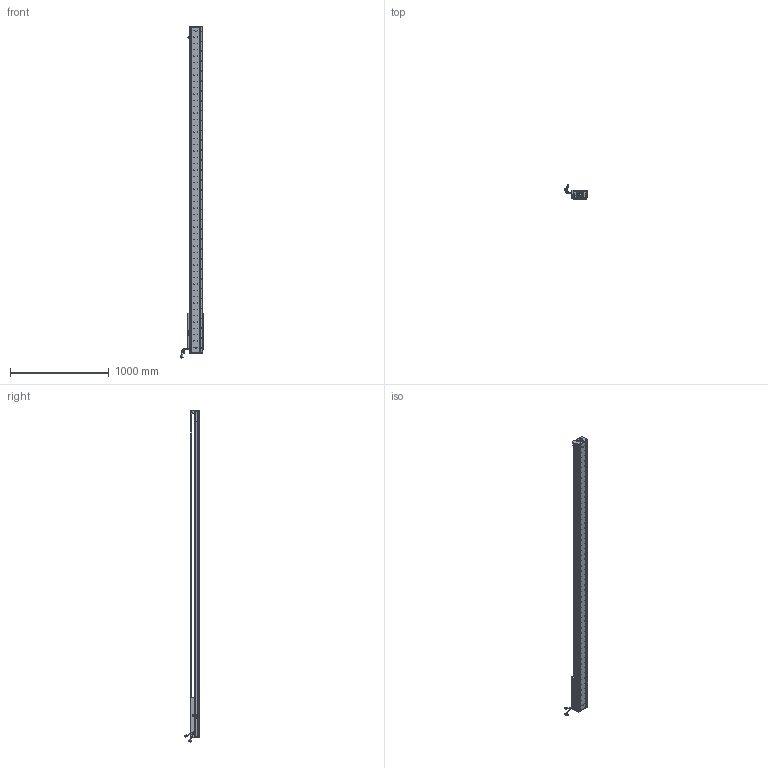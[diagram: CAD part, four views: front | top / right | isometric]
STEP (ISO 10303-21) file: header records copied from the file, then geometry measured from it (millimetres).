
FILE_DESCRIPTION (( 'STEP AP203' ), '1' );
FILE_NAME ('Z5-RY140D-1-L500-B-K.SLDASM_2850.step', '2021-05-17T08:42:03', ( '盈信电脑' ), ( '东莞市道滘镇水果街19号' ), 'SwSTEP 2.0', 'SolidWorks 2016', '' );
FILE_SCHEMA (( 'CONFIG_CONTROL_DESIGN' ));
Length unit declared in the file: millimetre
Products named in the file (36): SEAL; COVER-Part-1; 詩湍狟揤裔; Z5-RY140-L500詩湍100mm遵_2850; SCREW-M1.6-1; PBU_SHEET; 覜茼ん672; 140雄赽晤鎢ん堤盄; SCALE-Part-1; 榋妏寠巭燃_暯_M2_2; Z-140詩湍傷裔啣; SCREW-M1.7; LABEL-Part-1; PSLH080_PSLF2; HARNESS-Part-1; Z-RY140感应器672光电感应片; SCREW-M1.6; COVER; 080黍杅芛假蚾釱21遴; SCREW-M1.6-3; Z5-RY140D-1-L500-B-K.SLDASM_2850; SCALE; SHIELDPLATE; SEAL-Part-1; HOLDER0; 140-Z-臏賑輸盄裔(21遴); HARNESS; Z5-RY140圉猾敕臏賑輸(21遴); SCALE-Part-2; 140蚥薯蝶輸; SCREW-M1.6-2; HARNESS-Part-2; Z5-RY140-L500直线电机模组底座_2850; 詩湍奻揤裔; SCREW-M1.7-1; LABEL
Assembly tree (41 placements, depth 4):
  Z5-RY140D-1-L500-B-K.SLDASM_2850
    Z5-RY140-L500直线电机模组底座_2850
    Z-RY140感应器672光电感应片
    Z5-RY140圉猾敕臏賑輸(21遴)
    覜茼ん672  x3
    Z5-RY140-L500詩湍100mm遵_2850
    PSLH080_PSLF2
      SCALE
        SCALE-Part-1
        SCALE-Part-2
      HARNESS
        HARNESS-Part-1
        HARNESS-Part-2
      LABEL
        LABEL-Part-1
      COVER
        COVER-Part-1
      SEAL
        SEAL-Part-1
      榋妏寠巭燃_暯_M2_2
      SHIELDPLATE
      SCREW-M1.7
      SCREW-M1.7-1
      PBU_SHEET
      SCREW-M1.6
      SCREW-M1.6-1
      SCREW-M1.6-2
      SCREW-M1.6-3
      HOLDER0
    080黍杅芛假蚾釱21遴
    140-Z-臏賑輸盄裔(21遴)
    Z-140詩湍傷裔啣  x2
    詩湍狟揤裔  x2
    詩湍奻揤裔  x2
    140蚥薯蝶輸  x2
    140雄赽晤鎢ん堤盄
Bounding box: 239.79 x 143.88 x 3355.87 mm (x, y, z)
Volume: 10887766.9 mm3; surface area: 2802720.1 mm2
Topology: 36 solids, 36 shells, 4692 faces, 12870 edges, 8159 vertices
Faces by surface type: cylinder 2642, plane 1478, cone 450, torus 69, bspline 53
Entity records: 152106 total; most frequent: CARTESIAN_POINT 43925, ORIENTED_EDGE 22564, DIRECTION 20610, EDGE_CURVE 11282, AXIS2_PLACEMENT_3D 7708, VERTEX_POINT 7327, LINE 5194, VECTOR 5194
